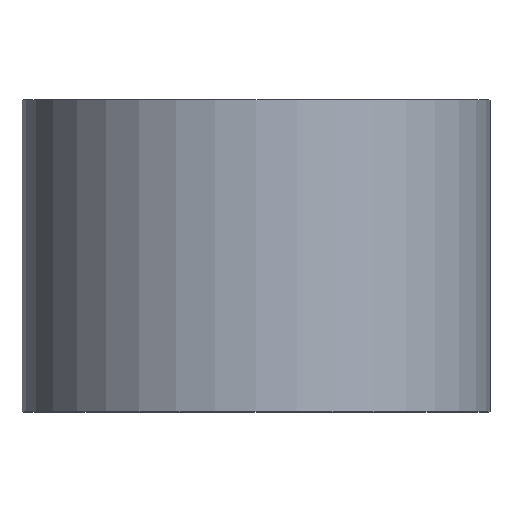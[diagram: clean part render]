
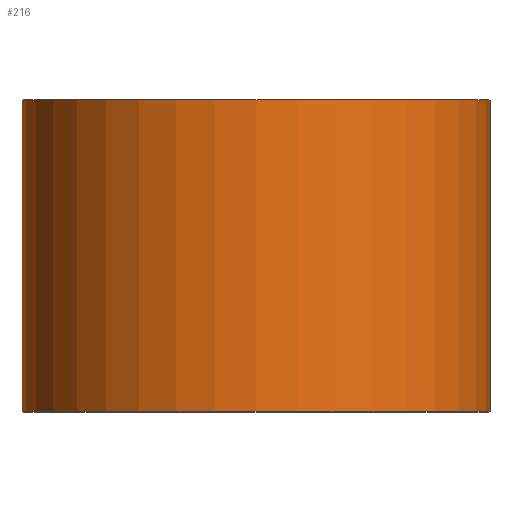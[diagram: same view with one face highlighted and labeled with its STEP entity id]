
A CAD part, top view. The second image highlights one B-rep face of the part: STEP entity #216.
In plain terms, the highlighted cylindrical face has radius 15 mm (diameter 30 mm), a partial arc.
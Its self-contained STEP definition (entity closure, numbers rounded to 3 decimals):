
#2 = DIRECTION ( 'NONE',  ( -1., 0., 0. ) ) ;
#7 = VERTEX_POINT ( 'NONE', #200 ) ;
#11 = VECTOR ( 'NONE', #95, 1000. ) ;
#12 = EDGE_CURVE ( 'NONE', #61, #7, #261, .T. ) ;
#14 = ORIENTED_EDGE ( 'NONE', *, *, #227, .T. ) ;
#22 = ORIENTED_EDGE ( 'NONE', *, *, #145, .F. ) ;
#49 = DIRECTION ( 'NONE',  ( -1., 0., 0. ) ) ;
#55 = ORIENTED_EDGE ( 'NONE', *, *, #12, .F. ) ;
#61 = VERTEX_POINT ( 'NONE', #92 ) ;
#76 = DIRECTION ( 'NONE',  ( 0., 1., 0. ) ) ;
#80 = CARTESIAN_POINT ( 'NONE',  ( 0., 0., 0. ) ) ;
#84 = CYLINDRICAL_SURFACE ( 'NONE', #106, 15. ) ;
#92 = CARTESIAN_POINT ( 'NONE',  ( -15., 0., 0. ) ) ;
#95 = DIRECTION ( 'NONE',  ( 0., 1., 0. ) ) ;
#98 = CARTESIAN_POINT ( 'NONE',  ( 15., 20., 0. ) ) ;
#106 = AXIS2_PLACEMENT_3D ( 'NONE', #183, #125, #49 ) ;
#110 = VECTOR ( 'NONE', #76, 1000. ) ;
#112 = EDGE_CURVE ( 'NONE', #61, #189, #163, .T. ) ;
#124 = DIRECTION ( 'NONE',  ( 0., 1., 0. ) ) ;
#125 = DIRECTION ( 'NONE',  ( 0., 1., 0. ) ) ;
#139 = CIRCLE ( 'NONE', #301, 15. ) ;
#141 = CARTESIAN_POINT ( 'NONE',  ( 0., 20., 0. ) ) ;
#143 = LINE ( 'NONE', #188, #110 ) ;
#145 = EDGE_CURVE ( 'NONE', #7, #169, #139, .T. ) ;
#163 = CIRCLE ( 'NONE', #195, 15. ) ;
#164 = DIRECTION ( 'NONE',  ( -1., 0., 0. ) ) ;
#169 = VERTEX_POINT ( 'NONE', #98 ) ;
#183 = CARTESIAN_POINT ( 'NONE',  ( 0., 0., 0. ) ) ;
#188 = CARTESIAN_POINT ( 'NONE',  ( 15., 0., 0. ) ) ;
#189 = VERTEX_POINT ( 'NONE', #206 ) ;
#195 = AXIS2_PLACEMENT_3D ( 'NONE', #80, #256, #164 ) ;
#200 = CARTESIAN_POINT ( 'NONE',  ( -15., 20., 0. ) ) ;
#206 = CARTESIAN_POINT ( 'NONE',  ( 15., 0., 0. ) ) ;
#216 = ADVANCED_FACE ( 'NONE', ( #292 ), #84, .T. ) ;
#217 = EDGE_LOOP ( 'NONE', ( #221, #14, #22, #55 ) ) ;
#221 = ORIENTED_EDGE ( 'NONE', *, *, #112, .T. ) ;
#227 = EDGE_CURVE ( 'NONE', #189, #169, #143, .T. ) ;
#256 = DIRECTION ( 'NONE',  ( 0., 1., 0. ) ) ;
#261 = LINE ( 'NONE', #297, #11 ) ;
#292 = FACE_OUTER_BOUND ( 'NONE', #217, .T. ) ;
#297 = CARTESIAN_POINT ( 'NONE',  ( -15., 0., 0. ) ) ;
#301 = AXIS2_PLACEMENT_3D ( 'NONE', #141, #124, #2 ) ;
